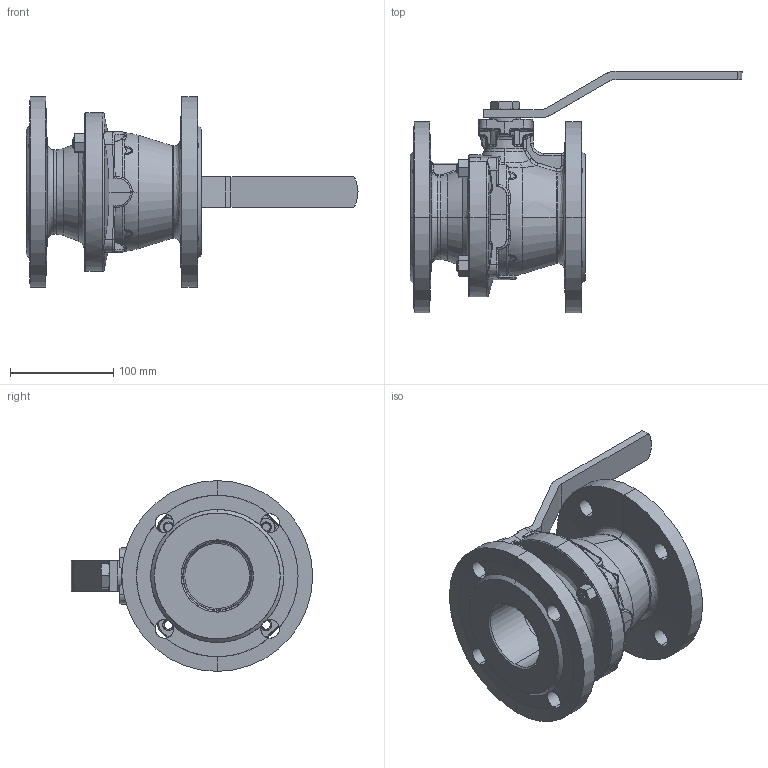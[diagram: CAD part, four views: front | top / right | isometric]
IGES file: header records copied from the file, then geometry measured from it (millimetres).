
Start section: SolidWorks IGES file using analytic representation for surfaces
Global section: file name: C:\Documents and Settings\Luca.Saino\Desktop\B2 IGES+DWG\IGES\B2.100I065L16CN.IGS; native system: SolidWorks 2008; preprocessor: SolidWorks 2008; author: Luca.Saino; date: 080617.102551; units: millimetre
Bounding box: 322 x 234.03 x 185 mm (x, y, z)
Surface area: 237096.4 mm2 (no closed solid volume)
Topology: 0 solids, 0 shells, 838 faces, 10278 edges, 10267 vertices
Faces by surface type: bspline 468, revolution 370
